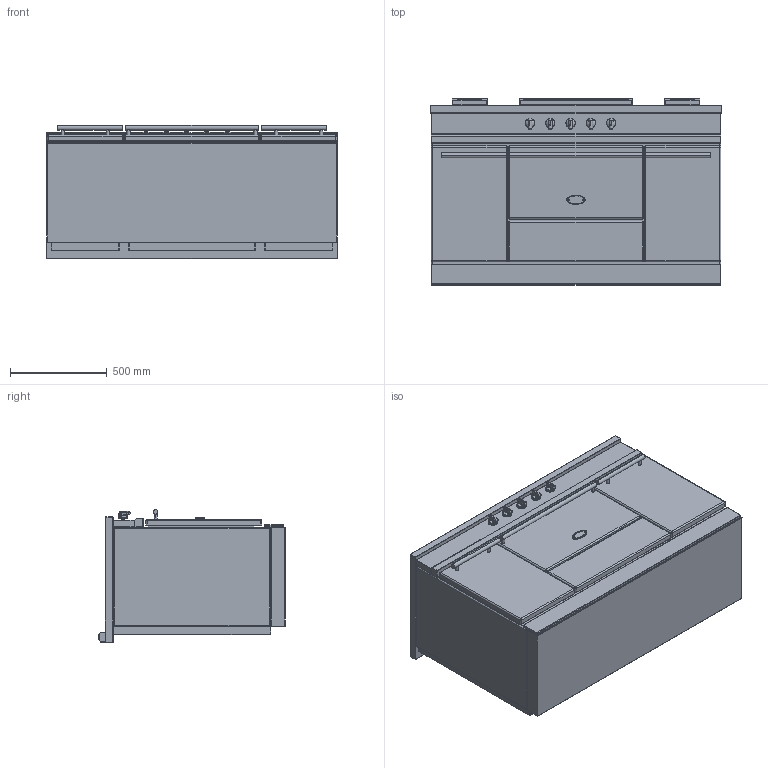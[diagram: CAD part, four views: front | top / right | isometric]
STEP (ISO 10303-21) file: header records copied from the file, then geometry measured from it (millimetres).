
FILE_DESCRIPTION((''),'2;1');
FILE_NAME('LMVTR1541_ASM','2022-04-13T14:16:28',('stagiaire'),(''),'CREO PARAMETRIC BY PTC INC, 2021424','CREO PARAMETRIC BY PTC INC, 2021424','');
FILE_SCHEMA(('AP203_CONFIGURATION_CONTROLLED_3D_DESIGN_OF_MECHANICAL_PARTS_AND_ASSEMBLIES_MIM_LF { 1 0 10303 403 2 1 2 }'));
Products named in the file (13): BASE_EXPORT_FONTENAY_LMVTR1541; 65049009; 65650001; 65064012; 19150009; 88064012_ASM; BASE_EXPORT_FONTENAY_LMVTR1541_ASM; TABLE_1505_INDUCTION_ET_VTR; 65052002; CHEMINEE_2020_LG182_EXPORT_STEP; CHEMINEE_2020_LG582_EXPORT_STEP; TABLE_1505_VTR_ASM; LMVTR1541_ASM
Assembly tree (17 placements, depth 4):
  LMVTR1541_ASM
    BASE_EXPORT_FONTENAY_LMVTR1541_ASM
      BASE_EXPORT_FONTENAY_LMVTR1541
      65049009
      65650001
      88064012_ASM  x5
        65064012
        19150009
    TABLE_1505_VTR_ASM
      TABLE_1505_INDUCTION_ET_VTR
      65052002
      CHEMINEE_2020_LG182_EXPORT_STEP  x2
      CHEMINEE_2020_LG582_EXPORT_STEP
Bounding box: 1505 x 963 x 688.5 mm (x, y, z)
Volume: 554182720 mm3; surface area: 13235734.2 mm2
Topology: 22 solids, 22 shells, 2545 faces, 7362 edges, 4683 vertices
Faces by surface type: cylinder 1040, plane 1013, sphere 208, bspline 189, torus 67, cone 26, extrusion 2
Entity records: 73868 total; most frequent: CARTESIAN_POINT 19848, DIRECTION 9865, ORIENTED_EDGE 9860, EDGE_CURVE 4930, VECTOR 3531, LINE 3529, AXIS2_PLACEMENT_3D 3149, VERTEX_POINT 3145
